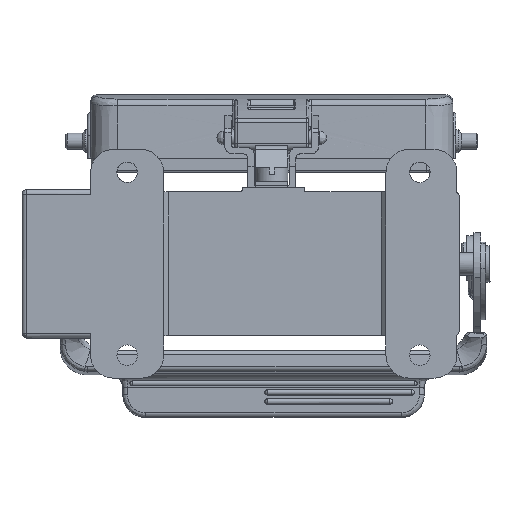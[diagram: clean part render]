
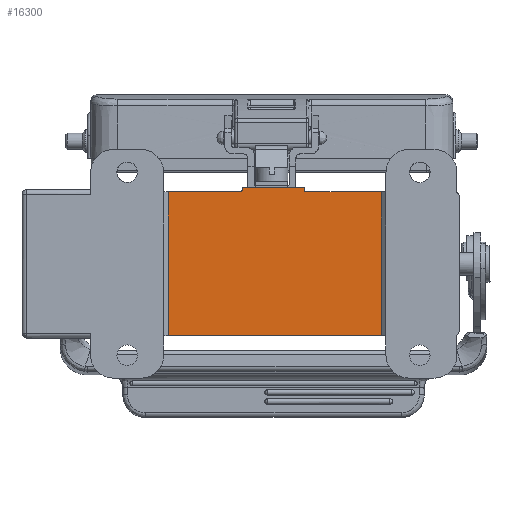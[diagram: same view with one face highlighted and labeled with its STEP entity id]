
A CAD part, left-side view. The second image highlights one B-rep face of the part: STEP entity #16300.
In plain terms, the highlighted planar face has unit normal (-1, 0, 0) as drawn and (0, -1, 0) by its records, which use the part's own axes.
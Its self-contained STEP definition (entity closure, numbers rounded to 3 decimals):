
#7 = CARTESIAN_POINT ( 'NONE',  ( -0.3, -57.5, -15.727 ) ) ;
#229 = CARTESIAN_POINT ( 'NONE',  ( -6.794, -57.5, -16.489 ) ) ;
#630 = DIRECTION ( 'NONE',  ( 0., 1., 0. ) ) ;
#1367 = CARTESIAN_POINT ( 'NONE',  ( 6.915, -57.5, -15.975 ) ) ;
#1604 = LINE ( 'NONE', #7, #34455 ) ;
#2303 = CARTESIAN_POINT ( 'NONE',  ( -23.6, -57.5, -0.5 ) ) ;
#3368 = FACE_OUTER_BOUND ( 'NONE', #10354, .T. ) ;
#5175 = CARTESIAN_POINT ( 'NONE',  ( -6.348, -57.5, -16.728 ) ) ;
#5565 = ORIENTED_EDGE ( 'NONE', *, *, #62756, .T. ) ;
#6696 = CARTESIAN_POINT ( 'NONE',  ( -2.8, -57.5, 15.727 ) ) ;
#6936 = VECTOR ( 'NONE', #11576, 1000. ) ;
#7457 = CARTESIAN_POINT ( 'NONE',  ( 6.848, -57.5, -16.228 ) ) ;
#7497 = CARTESIAN_POINT ( 'NONE',  ( -23.6, -57.5, 15.727 ) ) ;
#8672 = ORIENTED_EDGE ( 'NONE', *, *, #20717, .T. ) ;
#10075 = VERTEX_POINT ( 'NONE', #15674 ) ;
#10354 = EDGE_LOOP ( 'NONE', ( #20451, #8672, #61991, #46763, #27224, #5565, #52854, #46412, #52796, #69246 ) ) ;
#11576 = DIRECTION ( 'NONE',  ( 0., 0., -1. ) ) ;
#15576 = VECTOR ( 'NONE', #61134, 1000. ) ;
#15674 = CARTESIAN_POINT ( 'NONE',  ( -6.848, -57.5, -16.228 ) ) ;
#16300 = ADVANCED_FACE ( 'NONE', ( #3368 ), #16888, .F. ) ;
#16888 = PLANE ( 'NONE',  #54070 ) ;
#17368 = CARTESIAN_POINT ( 'NONE',  ( 6.873, -57.5, -16.068 ) ) ;
#18698 = CARTESIAN_POINT ( 'NONE',  ( -23.6, -57.5, -15.727 ) ) ;
#20415 = VERTEX_POINT ( 'NONE', #34012 ) ;
#20451 = ORIENTED_EDGE ( 'NONE', *, *, #25575, .F. ) ;
#20717 = EDGE_CURVE ( 'NONE', #20415, #10075, #50024, .T. ) ;
#20759 = CARTESIAN_POINT ( 'NONE',  ( -0.3, -57.5, -15.727 ) ) ;
#21083 = CARTESIAN_POINT ( 'NONE',  ( 6.348, -57.5, -16.728 ) ) ;
#21103 = VECTOR ( 'NONE', #25706, 1000. ) ;
#21284 = LINE ( 'NONE', #6696, #51775 ) ;
#21304 = VECTOR ( 'NONE', #42735, 1000. ) ;
#23497 = CARTESIAN_POINT ( 'NONE',  ( 7.216, -57.5, -15.727 ) ) ;
#23816 = VERTEX_POINT ( 'NONE', #51318 ) ;
#25410 = DIRECTION ( 'NONE',  ( -1., 0., 0. ) ) ;
#25575 = EDGE_CURVE ( 'NONE', #20415, #51187, #1604, .T. ) ;
#25706 = DIRECTION ( 'NONE',  ( 0., 0., -1. ) ) ;
#26175 = CARTESIAN_POINT ( 'NONE',  ( 23., -57.5, -0.5 ) ) ;
#26515 = CARTESIAN_POINT ( 'NONE',  ( 6.848, -57.5, -16.228 ) ) ;
#26760 = CARTESIAN_POINT ( 'NONE',  ( 6.848, -57.5, -16.359 ) ) ;
#26856 = CARTESIAN_POINT ( 'NONE',  ( -6.848, -57.5, -16.359 ) ) ;
#27224 = ORIENTED_EDGE ( 'NONE', *, *, #34718, .F. ) ;
#28142 = DIRECTION ( 'NONE',  ( 1., 0., 0. ) ) ;
#28681 = CARTESIAN_POINT ( 'NONE',  ( 7.09, -57.5, -15.78 ) ) ;
#28887 = VECTOR ( 'NONE', #25410, 1000. ) ;
#29641 = EDGE_CURVE ( 'NONE', #51187, #32796, #29915, .T. ) ;
#29915 = LINE ( 'NONE', #2303, #15576 ) ;
#32756 = CARTESIAN_POINT ( 'NONE',  ( -6.609, -57.5, -16.674 ) ) ;
#32796 = VERTEX_POINT ( 'NONE', #7497 ) ;
#33236 = B_SPLINE_CURVE_WITH_KNOTS ( 'NONE', 3,
 ( #5175, #42934, #32756, #229, #26856, #37961 ),
 .UNSPECIFIED., .F., .F.,
 ( 4, 2, 4 ),
 ( 0., 0.5, 1. ),
 .UNSPECIFIED. ) ;
#33636 = VERTEX_POINT ( 'NONE', #34993 ) ;
#33892 = CARTESIAN_POINT ( 'NONE',  ( 6.864, -57.5, -16.097 ) ) ;
#34012 = CARTESIAN_POINT ( 'NONE',  ( -6.848, -57.5, -15.727 ) ) ;
#34105 = CARTESIAN_POINT ( 'NONE',  ( 6.951, -57.5, -15.921 ) ) ;
#34455 = VECTOR ( 'NONE', #54057, 1000. ) ;
#34718 = EDGE_CURVE ( 'NONE', #23816, #58890, #46608, .T. ) ;
#34993 = CARTESIAN_POINT ( 'NONE',  ( 23., -57.5, -15.727 ) ) ;
#37271 = VERTEX_POINT ( 'NONE', #60835 ) ;
#37961 = CARTESIAN_POINT ( 'NONE',  ( -6.848, -57.5, -16.228 ) ) ;
#38853 = CARTESIAN_POINT ( 'NONE',  ( 6.848, -57.5, -16.194 ) ) ;
#39047 = EDGE_CURVE ( 'NONE', #58890, #37271, #44980, .T. ) ;
#39189 = EDGE_CURVE ( 'NONE', #32796, #43620, #21284, .T. ) ;
#39767 = CARTESIAN_POINT ( 'NONE',  ( 6.851, -57.5, -16.161 ) ) ;
#42424 = CARTESIAN_POINT ( 'NONE',  ( 6.348, -57.5, -16.728 ) ) ;
#42598 = CARTESIAN_POINT ( 'NONE',  ( 6.794, -57.5, -16.489 ) ) ;
#42735 = DIRECTION ( 'NONE',  ( -1., 0., 0. ) ) ;
#42934 = CARTESIAN_POINT ( 'NONE',  ( -6.479, -57.5, -16.728 ) ) ;
#43620 = VERTEX_POINT ( 'NONE', #45642 ) ;
#44140 = CARTESIAN_POINT ( 'NONE',  ( -6.848, -57.5, -15.471 ) ) ;
#44980 = LINE ( 'NONE', #46236, #28887 ) ;
#44997 = CARTESIAN_POINT ( 'NONE',  ( 6.971, -57.5, -15.898 ) ) ;
#45642 = CARTESIAN_POINT ( 'NONE',  ( 23., -57.5, 15.727 ) ) ;
#46236 = CARTESIAN_POINT ( 'NONE',  ( -0.3, -57.5, -16.728 ) ) ;
#46412 = ORIENTED_EDGE ( 'NONE', *, *, #62238, .F. ) ;
#46608 = B_SPLINE_CURVE_WITH_KNOTS ( 'NONE', 3,
 ( #26515, #26760, #42598, #48064, #53502, #21083 ),
 .UNSPECIFIED., .F., .F.,
 ( 4, 2, 4 ),
 ( 0., 0.5, 1. ),
 .UNSPECIFIED. ) ;
#46642 = B_SPLINE_CURVE_WITH_KNOTS ( 'NONE', 3,
 ( #7457, #38853, #39767, #33892, #17368, #60895, #1367, #34105, #44997, #28681, #23497, #61345 ),
 .UNSPECIFIED., .F., .F.,
 ( 4, 2, 2, 2, 2, 4 ),
 ( 0., 0.125, 0.25, 0.375, 0.5, 1. ),
 .UNSPECIFIED. ) ;
#46763 = ORIENTED_EDGE ( 'NONE', *, *, #39047, .F. ) ;
#48064 = CARTESIAN_POINT ( 'NONE',  ( 6.609, -57.5, -16.674 ) ) ;
#49793 = EDGE_CURVE ( 'NONE', #33636, #62013, #67859, .T. ) ;
#49913 = LINE ( 'NONE', #26175, #21103 ) ;
#50024 = LINE ( 'NONE', #44140, #6936 ) ;
#51051 = CARTESIAN_POINT ( 'NONE',  ( 7.348, -57.5, -15.727 ) ) ;
#51187 = VERTEX_POINT ( 'NONE', #18698 ) ;
#51318 = CARTESIAN_POINT ( 'NONE',  ( 6.848, -57.5, -16.228 ) ) ;
#51775 = VECTOR ( 'NONE', #28142, 1000. ) ;
#52796 = ORIENTED_EDGE ( 'NONE', *, *, #39189, .F. ) ;
#52854 = ORIENTED_EDGE ( 'NONE', *, *, #49793, .F. ) ;
#53502 = CARTESIAN_POINT ( 'NONE',  ( 6.479, -57.5, -16.728 ) ) ;
#54057 = DIRECTION ( 'NONE',  ( -1., 0., 0. ) ) ;
#54070 = AXIS2_PLACEMENT_3D ( 'NONE', #59684, #630, #65095 ) ;
#56170 = EDGE_CURVE ( 'NONE', #37271, #10075, #33236, .T. ) ;
#58890 = VERTEX_POINT ( 'NONE', #42424 ) ;
#59684 = CARTESIAN_POINT ( 'NONE',  ( -0.3, -57.5, -0.5 ) ) ;
#60835 = CARTESIAN_POINT ( 'NONE',  ( -6.348, -57.5, -16.728 ) ) ;
#60895 = CARTESIAN_POINT ( 'NONE',  ( 6.9, -57.5, -16.005 ) ) ;
#61134 = DIRECTION ( 'NONE',  ( 0., 0., 1. ) ) ;
#61345 = CARTESIAN_POINT ( 'NONE',  ( 7.348, -57.5, -15.727 ) ) ;
#61991 = ORIENTED_EDGE ( 'NONE', *, *, #56170, .F. ) ;
#62013 = VERTEX_POINT ( 'NONE', #51051 ) ;
#62238 = EDGE_CURVE ( 'NONE', #43620, #33636, #49913, .T. ) ;
#62756 = EDGE_CURVE ( 'NONE', #23816, #62013, #46642, .T. ) ;
#65095 = DIRECTION ( 'NONE',  ( 0., 0., 1. ) ) ;
#67859 = LINE ( 'NONE', #20759, #21304 ) ;
#69246 = ORIENTED_EDGE ( 'NONE', *, *, #29641, .F. ) ;
